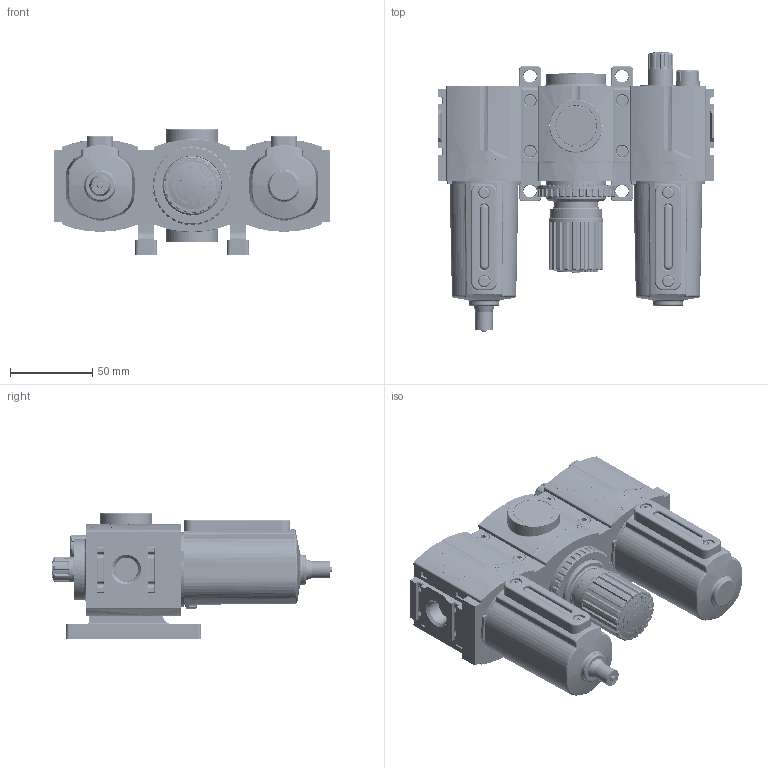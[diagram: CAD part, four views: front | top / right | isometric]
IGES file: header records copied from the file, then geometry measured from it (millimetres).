
Global section: file name: C:\Documents and Settings\szeedyk\Desktop\C382X1-81X_01.igs; native system: NX V4.0; preprocessor: UGS NX IGES V4.0; date: 20090204.115844; units: inch
Bounding box: 168 x 170.48 x 76.35 mm (x, y, z)
Surface area: 121426.7 mm2 (no closed solid volume)
Topology: 0 solids, 0 shells, 4886 faces, 27781 edges, 27762 vertices
Faces by surface type: bspline 4886
